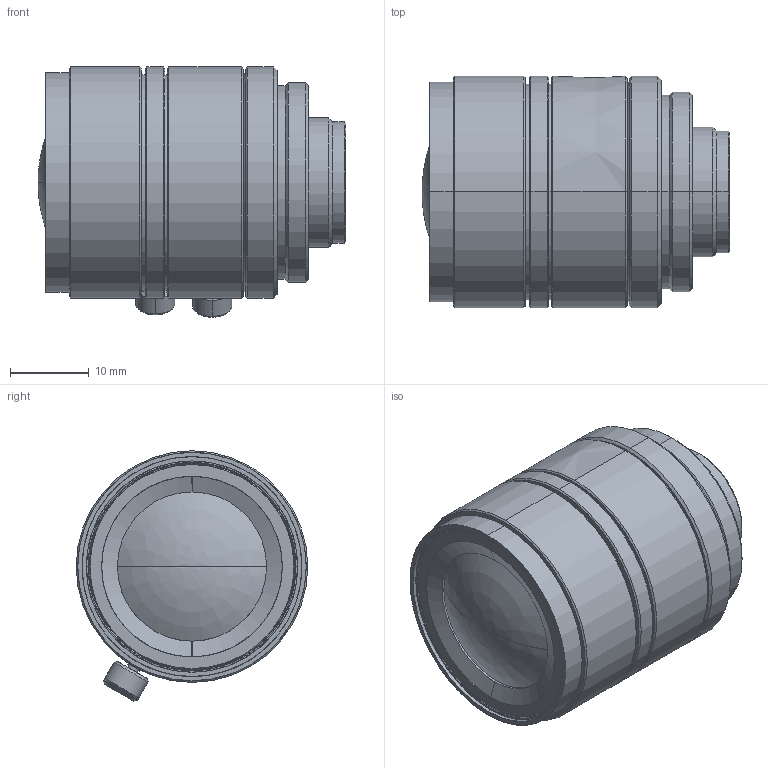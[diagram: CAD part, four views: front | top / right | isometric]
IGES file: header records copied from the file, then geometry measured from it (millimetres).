
Start section: SolidWorks IGES file using analytic representation for surfaces
Global section: file name: C:\Documents and Settings\Tsuji_vst\My Documents\図面\_3D\00 VST\SV-V\SV-03514V.IGS,1; native system: 5HSolidWorks 2012; preprocessor: SolidWorks 2012; author: Tsuji_vst; date: 131024.163533; units: millimetre
Bounding box: 39.22 x 29.5 x 31.9 mm (x, y, z)
Surface area: 6333.9 mm2 (no closed solid volume)
Topology: 0 solids, 0 shells, 121 faces, 2234 edges, 2232 vertices
Faces by surface type: revolution 100, bspline 21
